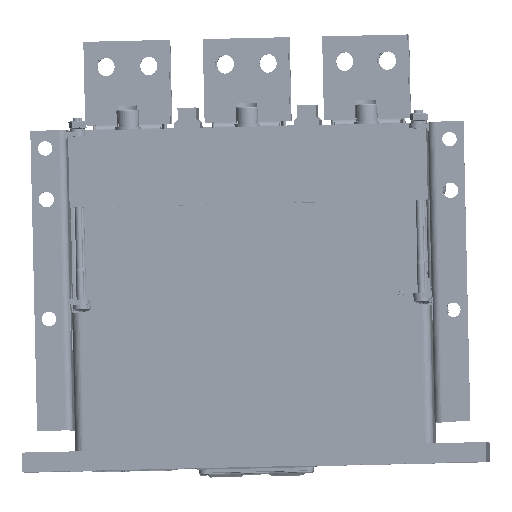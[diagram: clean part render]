
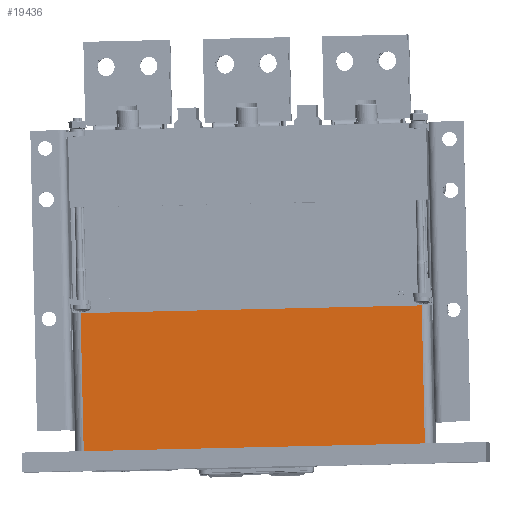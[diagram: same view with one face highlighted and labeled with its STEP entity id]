
A CAD part, front view. The second image highlights one B-rep face of the part: STEP entity #19436.
In plain terms, the highlighted planar face has unit normal (-0.006, -1, 0.001) as drawn and (0, 0, -1) by its records, which use the part's own axes.
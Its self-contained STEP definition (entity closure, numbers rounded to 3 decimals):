
#19436 = ADVANCED_FACE ( 'NONE', ( #147046 ), #223585, .T. ) ;
#19651 = VERTEX_POINT ( 'NONE', #169626 ) ;
#32314 = DIRECTION ( 'NONE',  ( 0., -1., 0. ) ) ;
#85586 = CARTESIAN_POINT ( 'NONE',  ( 100., -33.15, 37.75 ) ) ;
#88193 = DIRECTION ( 'NONE',  ( -1., 0., 0. ) ) ;
#90420 = EDGE_LOOP ( 'NONE', ( #196564, #424753, #91600, #424547 ) ) ;
#91600 = ORIENTED_EDGE ( 'NONE', *, *, #412371, .T. ) ;
#114551 = VECTOR ( 'NONE', #204843, 1000. ) ;
#126409 = LINE ( 'NONE', #210501, #357413 ) ;
#129733 = VERTEX_POINT ( 'NONE', #309013 ) ;
#147046 = FACE_OUTER_BOUND ( 'NONE', #90420, .T. ) ;
#152023 = VERTEX_POINT ( 'NONE', #218498 ) ;
#169626 = CARTESIAN_POINT ( 'NONE',  ( -100., 52., 37.75 ) ) ;
#196564 = ORIENTED_EDGE ( 'NONE', *, *, #271464, .T. ) ;
#204843 = DIRECTION ( 'NONE',  ( 0., 1., 0. ) ) ;
#210501 = CARTESIAN_POINT ( 'NONE',  ( 100., -33.15, 37.75 ) ) ;
#218498 = CARTESIAN_POINT ( 'NONE',  ( 100., 52., 37.75 ) ) ;
#223585 = PLANE ( 'NONE',  #411477 ) ;
#226087 = CARTESIAN_POINT ( 'NONE',  ( -105., -31.25, 37.75 ) ) ;
#265544 = VERTEX_POINT ( 'NONE', #85586 ) ;
#266859 = EDGE_CURVE ( 'NONE', #265544, #129733, #126409, .T. ) ;
#271464 = EDGE_CURVE ( 'NONE', #129733, #19651, #439409, .T. ) ;
#282722 = DIRECTION ( 'NONE',  ( 0., -1., 0. ) ) ;
#290285 = LINE ( 'NONE', #323504, #484849 ) ;
#309013 = CARTESIAN_POINT ( 'NONE',  ( -100., -33.15, 37.75 ) ) ;
#323504 = CARTESIAN_POINT ( 'NONE',  ( 100., 52., 37.75 ) ) ;
#338339 = DIRECTION ( 'NONE',  ( 0., 0., -1. ) ) ;
#357413 = VECTOR ( 'NONE', #88193, 1000. ) ;
#362982 = DIRECTION ( 'NONE',  ( 1., 0., 0. ) ) ;
#365448 = CARTESIAN_POINT ( 'NONE',  ( -100., -33.15, 37.75 ) ) ;
#383808 = EDGE_CURVE ( 'NONE', #19651, #152023, #403758, .T. ) ;
#403758 = LINE ( 'NONE', #465792, #451356 ) ;
#411477 = AXIS2_PLACEMENT_3D ( 'NONE', #226087, #338339, #32314 ) ;
#412371 = EDGE_CURVE ( 'NONE', #152023, #265544, #290285, .T. ) ;
#424547 = ORIENTED_EDGE ( 'NONE', *, *, #266859, .T. ) ;
#424753 = ORIENTED_EDGE ( 'NONE', *, *, #383808, .T. ) ;
#439409 = LINE ( 'NONE', #365448, #114551 ) ;
#451356 = VECTOR ( 'NONE', #362982, 1000. ) ;
#465792 = CARTESIAN_POINT ( 'NONE',  ( -100., 52., 37.75 ) ) ;
#484849 = VECTOR ( 'NONE', #282722, 1000. ) ;
